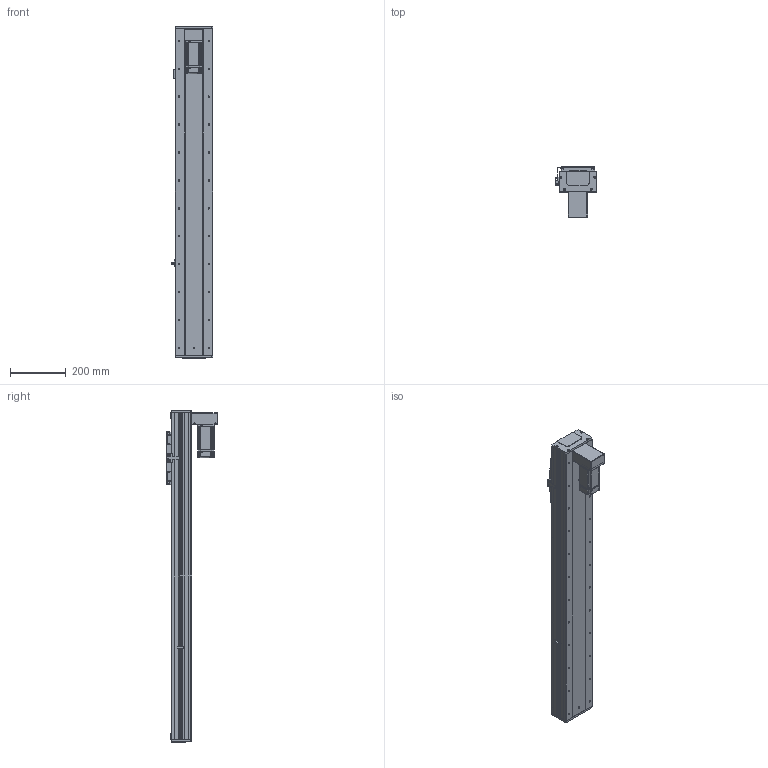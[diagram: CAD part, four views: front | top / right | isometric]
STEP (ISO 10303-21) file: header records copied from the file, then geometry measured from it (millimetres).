
FILE_DESCRIPTION (( 'STEP AP203' ), '1' );
FILE_NAME ('RY140F-L2020-300-BK.SLDASM_900.step', '2021-03-02T08:27:08', ( '盈信电脑' ), ( '东莞市道滘镇水果街19号' ), 'SwSTEP 2.0', 'SolidWorks 2012', '' );
FILE_SCHEMA (( 'CONFIG_CONTROL_DESIGN' ));
Length unit declared in the file: millimetre
Products named in the file (21): RY140F-詩湍揤え; RY140F-直连型材铝滑块(16丝杆); RY140F-L2020-300-BK.SLDASM_900; RY140F-狟殏萇儂啣(400W M5); RY140F-詩湍嘐隅輸; RY140F-狟殏萇儂欶(400W); 滅袉蝶18-10; 侐源滅袉蝶; 覜茼ん672; RY140F-672覜茼んえ; 侂狟400W侜督萇儂; 藻笠沭; RY100F-詩湍揤踡謫; RY140F-后盖板(铝件）; 15; RY140F-滅鳥奻裔; RY140F-詩湍幗謫粣; RY140F-直连型材铝滑块连接座; RY140F-300-BK倰第奻裔啣_900; RY140F-300-BK倰第菁釱_900; RY140F-300-BK蛌殏詩湍_900
Assembly tree (26 placements, depth 3):
  RY140F-L2020-300-BK.SLDASM_900
    RY140F-300-BK倰第菁釱_900
    RY140F-300-BK倰第奻裔啣_900  x2
    RY140F-300-BK蛌殏詩湍_900
    RY140F-直连型材铝滑块连接座
    RY140F-滅鳥奻裔
    RY140F-詩湍幗謫粣
    藻笠沭  x2
    RY100F-詩湍揤踡謫
    RY140F-后盖板(铝件）  x2
    侂狟400W侜督萇儂
      15
    覜茼ん672
    RY140F-672覜茼んえ
    RY140F-詩湍揤え  x2
    侐源滅袉蝶  x2
    RY140F-狟殏萇儂啣(400W M5)
    RY140F-狟殏萇儂欶(400W)
    RY140F-詩湍嘐隅輸
    滅袉蝶18-10  x2
    RY140F-直连型材铝滑块(16丝杆)
Bounding box: 148.7 x 184.5 x 1189 mm (x, y, z)
Volume: 4513887.1 mm3; surface area: 1608463.4 mm2
Topology: 25 solids, 25 shells, 2060 faces, 5632 edges, 3582 vertices
Faces by surface type: cylinder 1003, plane 811, cone 220, bspline 22, torus 4
Entity records: 64740 total; most frequent: CARTESIAN_POINT 13557, DIRECTION 10359, ORIENTED_EDGE 10052, EDGE_CURVE 5026, AXIS2_PLACEMENT_3D 3712, VERTEX_POINT 3286, VECTOR 2935, LINE 2935
